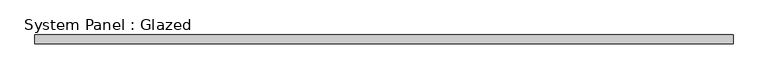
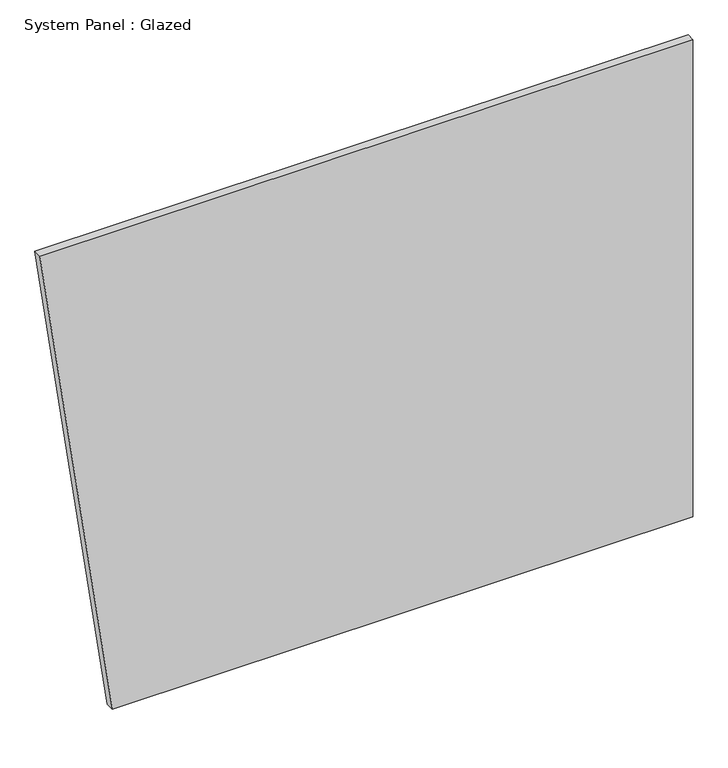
"""IFC4 building model written with IfcOpenShell, lengths in millimetres: plate geometry, System Panel : Glazed."""

from ifc_helpers import new_model, si_unit, frame, origin, place, context, project, spatial, polyline, outline, extrude, source, transform, mapped, element, save


def system_panel_glazed_785e68f1(model_context):
    return source(origin(), model_context, "Body", "SweptSolid", [
        extrude(outline(polyline([(0.0, -767.4820145), (0.0, 986.7625901), (1524.0, 986.7625901), (1524.0, -986.7625901), (0.0, -767.4820145)])), frame((0.0, 19.05, 0.0), z_axis=(0.0, 1.0, 0.0), x_axis=(0.0, 0.0, 1.0)), (0.0, 0.0, 1.0), 25.4),
    ])


if __name__ == "__main__":
    model = new_model("IFC4")
    model_context = context("Model", 3, world=origin())
    ifc_project = project(units=[si_unit("LENGTHUNIT", "METRE", prefix="MILLI")], contexts=[model_context])
    site = spatial("IfcSite", under=ifc_project)
    building = spatial("IfcBuilding", under=site)
    placement = place(None, origin())
    system_panel_glazed_shape = system_panel_glazed_785e68f1(model_context)
    element("IfcPlate", 1, ObjectType="System Panel : Glazed", at=placement, inside=building, context=model_context, shape_type="MappedRepresentation", body=[
        mapped(system_panel_glazed_shape, transform((0.0, 0.0, 0.0), x_axis=(1.0, 0.0, 0.0), y_axis=(0.0, 1.0, 0.0), z_axis=(0.0, 0.0, 1.0))),
    ])
    save(model, "model.ifc")
